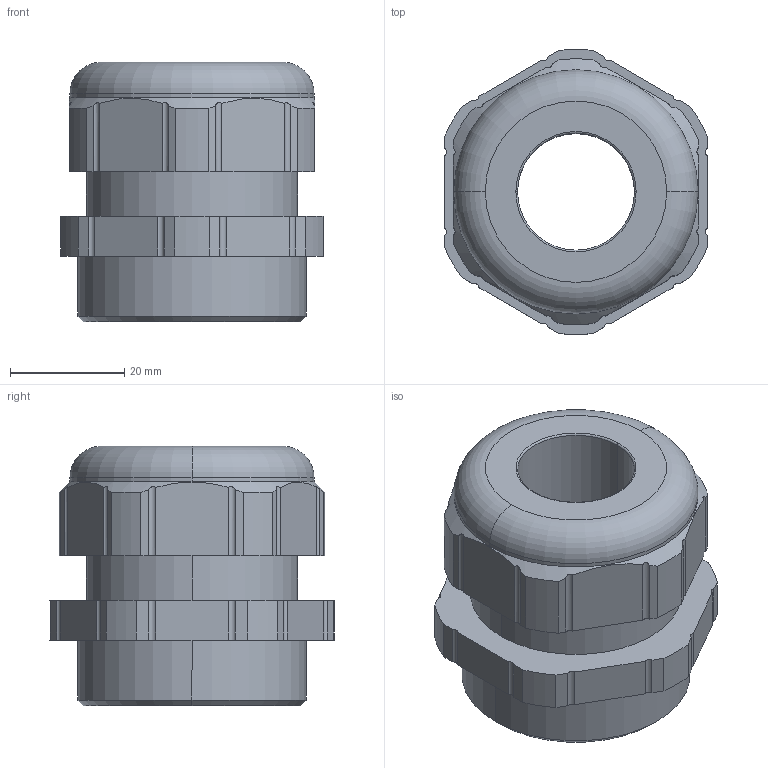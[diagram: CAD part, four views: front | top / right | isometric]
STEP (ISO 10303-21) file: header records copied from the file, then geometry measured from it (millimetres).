
FILE_DESCRIPTION (( 'STEP AP203' ), '1' );
FILE_NAME ('18M401721 T.STEP', '2006-08-18T09:21:43', ( ' ' ), ( '' ), 'SwSTEP 2.0', 'SolidWorks 2005278', '' );
FILE_SCHEMA (( 'CONFIG_CONTROL_DESIGN' ));
Length unit declared in the file: millimetre
Products named in the file (1): 18M401721 T
Bounding box: 46 x 49.96 x 45.5 mm (x, y, z)
Volume: 48807 mm3; surface area: 12543.5 mm2
Topology: 1 solids, 1 shells, 132 faces, 364 edges, 240 vertices
Faces by surface type: plane 78, cylinder 46, cone 4, torus 4
Entity records: 4423 total; most frequent: CARTESIAN_POINT 949, ORIENTED_EDGE 728, DIRECTION 688, EDGE_CURVE 364, LINE 242, VECTOR 242, VERTEX_POINT 240, AXIS2_PLACEMENT_3D 223
